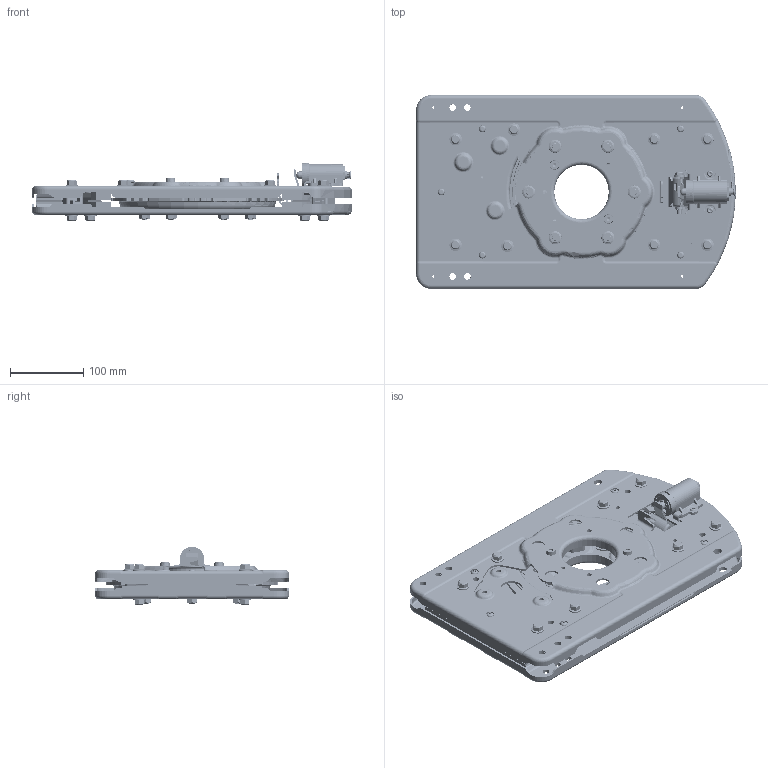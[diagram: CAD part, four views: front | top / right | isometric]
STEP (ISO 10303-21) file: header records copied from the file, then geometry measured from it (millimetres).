
FILE_DESCRIPTION(('CATIA V5 STEP Exchange'),'2;1');
FILE_NAME('E:\吉利商用车G3\02 3D方案\转盘外发冻结数据图纸\设计变更\限位块变更\SHT0015112.stp','2023-10-08T09:43:01+00:00',('none'),('none'),'CATIA Version 5 Release 20 GA (IN-10)','CATIA V5 STEP AP214','none');
FILE_SCHEMA(('AUTOMOTIVE_DESIGN { 1 0 10303 214 1 1 1 1 }'));
Products named in the file (45): SHT0015112; SHT0015114; SHT0015115; SHT0015116; SHT0015117; SHT0015118; SHT0015119; M8-10-luoshuan; zigongding-M4; SHT0015119 ; SHT0015119  ; SHT0015120; SHT0015122; SHT0015124; SHT0015125; SHT0015126; SHT0015127; SHT0015128; SHT0015130; SHT0015131; SHT0015132; SHT0015133; SHT0015136; SHT0015137; SHT0015138; SHT0015135; Q43680; SHT0015139; SHT0015140; SHT0015126 ; SHT0015141; SHT0015142; SHT0015143; BFA0000110; BFA0010037; BFA0010033; SHT0015146; BPC0010203; BPC0010263; BPC0010262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
Assembly tree (89 placements, depth 4):
  SHT0015112
    SHT0015114
      SHT0015115
      SHT0015116
      SHT0015117
      SHT0015118
      SHT0015119  x2
      M8-10-luoshuan  x8
      zigongding-M4  x5
      SHT0015119 
      SHT0015119  
    SHT0015120
      SHT0015122
      SHT0015124
        SHT0015125
        SHT0015126
      SHT0015127
    SHT0015128
      SHT0015115
      SHT0015116
      SHT0015130
        SHT0015131
        SHT0015132
        SHT0015133  x2
      SHT0015136
      SHT0015137
      SHT0015138
      zigongding-M4  x5
      SHT0015135
      Q43680
    SHT0015139
      SHT0015140
      SHT0015126 
    SHT0015141
    SHT0015142
      SHT0015143
      SHT0015119  x2
      SHT0015119   x2
    BFA0000110  x12
    M8-10-luoshuan  x8
    BFA0010037  x2
    BFA0010033  x2
    SHT0015146
      BPC0010203
      BPC0010263
      BPC0010262
      BPC0010261
      BSP0010049
      SHT0002205
      SHT0015148
      SHT0002209
Bounding box: 435 x 264 x 79.5 mm (x, y, z)
Volume: 1638169.9 mm3; surface area: 1258079.7 mm2
Topology: 342 solids, 342 shells, 9197 faces, 25319 edges, 14759 vertices
Faces by surface type: cylinder 2839, plane 2036, bspline 1708, sphere 1064, torus 793, cone 662, extrusion 87, revolution 8
Entity records: 289638 total; most frequent: CARTESIAN_POINT 138151, ORIENTED_EDGE 34924, DIRECTION 22058, EDGE_CURVE 17462, AXIS2_PLACEMENT_3D 11565, VERTEX_POINT 11249, EDGE_LOOP 7500, ADVANCED_FACE 6916
